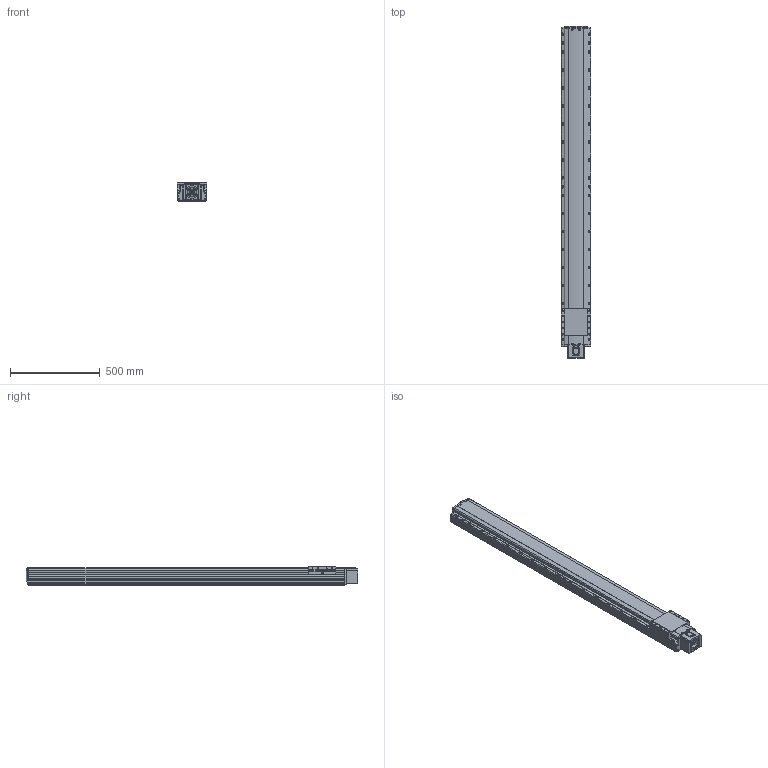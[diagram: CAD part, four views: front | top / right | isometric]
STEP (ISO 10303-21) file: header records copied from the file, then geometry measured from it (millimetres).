
FILE_DESCRIPTION(('STEP AP214'),'1');
FILE_NAME('Z:/Web/3D/PSA165/STP/PSA165-1500 (3D)/PSA165ㅁㅁ-1500S.stp','2014-06-24T10:50:33',(' '),(' '),'Spatial InterOp 3D',' ',' ');
FILE_SCHEMA(('automotive_design'));
Length unit declared in the file: millimetre
Products named in the file (67): 스크루 : Round - M4.0 x 12.0; RRCV-PA160; BASE; 스크루 : Round - M4.0 x 10.0; RN15; Screw 20; SLIDE; FRCV; 스크루 : Socket - M6.0 x 25.0; MTHZ-SAN150-80A; SSFX-SAN65; CPLCV-SAN65; 스크루 : Round - M3.0 x 6.0; SDWA47C(2); SDWA47C(3-1); SDWA47C(3); SDWA47C(1); SDWA47C(4); SDWA47C(5)
Bounding box: 165 x 1849.8 x 104 mm (x, y, z)
Volume: 24801172.4 mm3; surface area: 1525843.4 mm2
Topology: 67 solids, 67 shells, 3188 faces, 8527 edges, 5465 vertices
Faces by surface type: plane 1420, cylinder 1266, cone 393, sphere 50, bspline 35, torus 24
Entity records: 131199 total; most frequent: CARTESIAN_POINT 23305, DIRECTION 17679, ORIENTED_EDGE 16678, EDGE_CURVE 8339, AXIS2_PLACEMENT_3D 6449, VERTEX_POINT 5465, LINE 4781, VECTOR 4781
